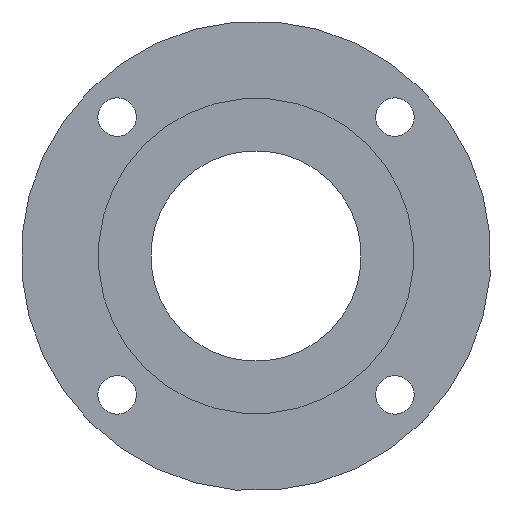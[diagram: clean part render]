
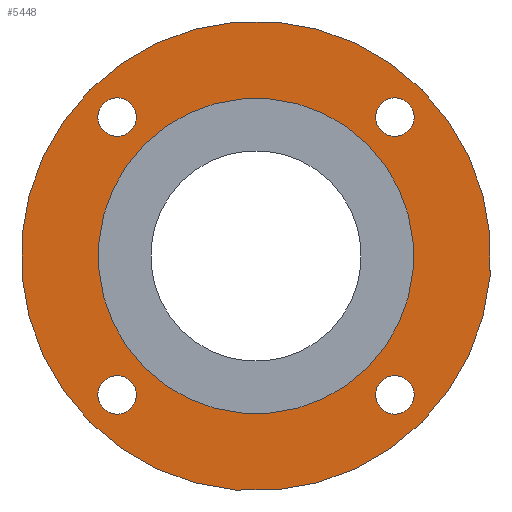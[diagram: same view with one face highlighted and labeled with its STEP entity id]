
A CAD part, left-side view. The second image highlights one B-rep face of the part: STEP entity #5448.
In plain terms, the highlighted planar face has unit normal (-1, 0, 0).
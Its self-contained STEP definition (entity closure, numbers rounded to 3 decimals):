
#109=CIRCLE('',#5796,45.);
#111=CIRCLE('',#5801,5.5);
#112=CIRCLE('',#5802,5.5);
#113=CIRCLE('',#5803,5.5);
#114=CIRCLE('',#5804,5.5);
#115=CIRCLE('',#5805,67.);
#1649=ORIENTED_EDGE('',*,*,#3212,.T.);
#1650=ORIENTED_EDGE('',*,*,#3213,.T.);
#1651=ORIENTED_EDGE('',*,*,#3214,.T.);
#1652=ORIENTED_EDGE('',*,*,#3215,.T.);
#1653=ORIENTED_EDGE('',*,*,#3216,.F.);
#1654=ORIENTED_EDGE('',*,*,#3210,.T.);
#3210=EDGE_CURVE('',#3993,#3993,#109,.T.);
#3212=EDGE_CURVE('',#3995,#3995,#111,.T.);
#3213=EDGE_CURVE('',#3996,#3996,#112,.T.);
#3214=EDGE_CURVE('',#3997,#3997,#113,.T.);
#3215=EDGE_CURVE('',#3998,#3998,#114,.T.);
#3216=EDGE_CURVE('',#3999,#3999,#115,.T.);
#3993=VERTEX_POINT('',#8635);
#3995=VERTEX_POINT('',#8642);
#3996=VERTEX_POINT('',#8644);
#3997=VERTEX_POINT('',#8646);
#3998=VERTEX_POINT('',#8648);
#3999=VERTEX_POINT('',#8650);
#4452=EDGE_LOOP('',(#1649));
#4453=EDGE_LOOP('',(#1650));
#4454=EDGE_LOOP('',(#1651));
#4455=EDGE_LOOP('',(#1652));
#4456=EDGE_LOOP('',(#1653));
#4457=EDGE_LOOP('',(#1654));
#4851=FACE_BOUND('',#4452,.T.);
#4852=FACE_BOUND('',#4453,.T.);
#4853=FACE_BOUND('',#4454,.T.);
#4854=FACE_BOUND('',#4455,.T.);
#4855=FACE_BOUND('',#4456,.T.);
#4856=FACE_BOUND('',#4457,.T.);
#5198=PLANE('',#5800);
#5448=ADVANCED_FACE('',(#4851,#4852,#4853,#4854,#4855,#4856),#5198,.F.);
#5796=AXIS2_PLACEMENT_3D('',#8634,#6292,#6293);
#5800=AXIS2_PLACEMENT_3D('',#8640,#6300,#6301);
#5801=AXIS2_PLACEMENT_3D('',#8641,#6302,#6303);
#5802=AXIS2_PLACEMENT_3D('',#8643,#6304,#6305);
#5803=AXIS2_PLACEMENT_3D('',#8645,#6306,#6307);
#5804=AXIS2_PLACEMENT_3D('',#8647,#6308,#6309);
#5805=AXIS2_PLACEMENT_3D('',#8649,#6310,#6311);
#6292=DIRECTION('',(1.,0.,0.));
#6293=DIRECTION('',(0.,0.707,-0.707));
#6300=DIRECTION('',(1.,0.,0.));
#6301=DIRECTION('',(0.,0.707,-0.707));
#6302=DIRECTION('',(1.,0.,0.));
#6303=DIRECTION('',(0.,0.707,-0.707));
#6304=DIRECTION('',(1.,0.,0.));
#6305=DIRECTION('',(0.,0.707,-0.707));
#6306=DIRECTION('',(1.,0.,0.));
#6307=DIRECTION('',(0.,0.707,-0.707));
#6308=DIRECTION('',(1.,0.,0.));
#6309=DIRECTION('',(0.,0.707,-0.707));
#6310=DIRECTION('',(1.,0.,0.));
#6311=DIRECTION('',(0.,0.707,-0.707));
#8634=CARTESIAN_POINT('',(86.5,0.,0.));
#8635=CARTESIAN_POINT('',(86.5,31.82,-31.82));
#8640=CARTESIAN_POINT('',(86.5,0.,0.));
#8641=CARTESIAN_POINT('',(86.5,39.598,-39.598));
#8642=CARTESIAN_POINT('',(86.5,43.487,-43.487));
#8643=CARTESIAN_POINT('',(86.5,-39.598,-39.598));
#8644=CARTESIAN_POINT('',(86.5,-35.709,-43.487));
#8645=CARTESIAN_POINT('',(86.5,-39.598,39.598));
#8646=CARTESIAN_POINT('',(86.5,-35.709,35.709));
#8647=CARTESIAN_POINT('',(86.5,39.598,39.598));
#8648=CARTESIAN_POINT('',(86.5,43.487,35.709));
#8649=CARTESIAN_POINT('',(86.5,0.,0.));
#8650=CARTESIAN_POINT('',(86.5,47.376,-47.376));
